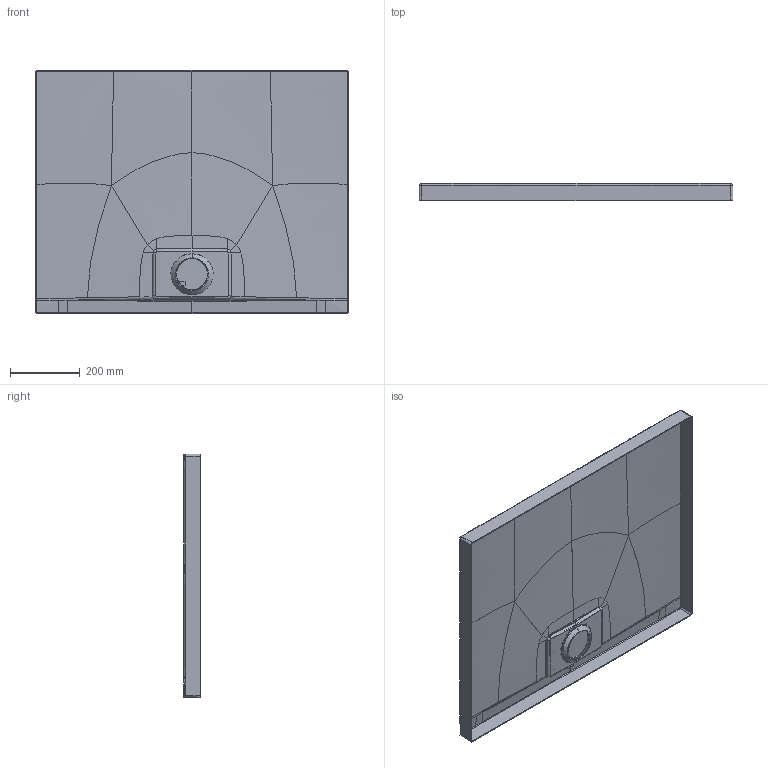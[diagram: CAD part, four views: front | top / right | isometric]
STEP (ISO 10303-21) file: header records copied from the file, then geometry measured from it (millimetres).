
FILE_DESCRIPTION((''),'2;1');
FILE_NAME('UDA9070ARA248_ARCHITECTURA_META_ASM','2022-07-12T15:52:37',('GrootJ'),('Villeroy & Boch Wellness bv'),'CREO PARAMETRIC BY PTC INC, 2020454','CREO PARAMETRIC BY PTC INC, 2020454','');
FILE_SCHEMA(('CONFIG_CONTROL_DESIGN'));
Products named in the file (6): G0500027_22; G0500024_69; G0500026_ASM_11_ASM; METALRIM_COVER_GEPLAATST120722_ASM; METALRIM-LOGO_12072022; UDA9070ARA248_ARCHITECTURA_META_ASM
Assembly tree (5 placements, depth 4):
  UDA9070ARA248_ARCHITECTURA_META_ASM
    METALRIM_COVER_GEPLAATST120722_ASM
      G0500026_ASM_11_ASM
        G0500027_22
        G0500024_69
    METALRIM-LOGO_12072022
Bounding box: 900 x 48 x 700 mm (x, y, z)
Volume: 119920.3 mm3; surface area: 1651849.3 mm2
Topology: 30 solids, 33 shells, 1183 faces, 3085 edges, 1924 vertices
Faces by surface type: plane 422, extrusion 240, cylinder 173, bspline 172, cone 114, sphere 36, torus 26
Entity records: 50177 total; most frequent: CARTESIAN_POINT 24032, ORIENTED_EDGE 6108, DIRECTION 4068, EDGE_CURVE 3059, VERTEX_POINT 1926, VECTOR 1552, B_SPLINE_CURVE_WITH_KNOTS 1514, LINE 1312
